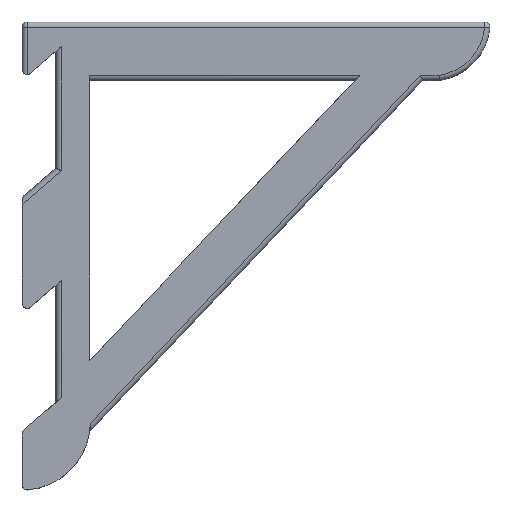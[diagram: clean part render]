
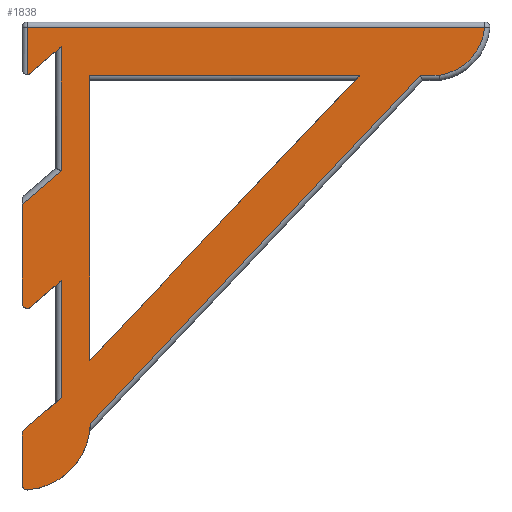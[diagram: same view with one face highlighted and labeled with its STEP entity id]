
A CAD part, top view. The second image highlights one B-rep face of the part: STEP entity #1838.
In plain terms, the highlighted planar face has unit normal (0, 0, 1).
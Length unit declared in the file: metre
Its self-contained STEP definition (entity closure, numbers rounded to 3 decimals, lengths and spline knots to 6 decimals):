
#90=CIRCLE('',#1955,0.016683);
#93=CIRCLE('',#1976,0.00127);
#94=CIRCLE('',#1977,0.00127);
#95=CIRCLE('',#1978,0.00127);
#96=CIRCLE('',#1979,0.013167);
#97=CIRCLE('',#1980,0.00127);
#272=ORIENTED_EDGE('',*,*,#786,.F.);
#273=ORIENTED_EDGE('',*,*,#812,.T.);
#274=ORIENTED_EDGE('',*,*,#813,.T.);
#275=ORIENTED_EDGE('',*,*,#736,.F.);
#276=ORIENTED_EDGE('',*,*,#814,.T.);
#277=ORIENTED_EDGE('',*,*,#797,.F.);
#278=ORIENTED_EDGE('',*,*,#815,.T.);
#279=ORIENTED_EDGE('',*,*,#803,.F.);
#280=ORIENTED_EDGE('',*,*,#816,.T.);
#281=ORIENTED_EDGE('',*,*,#805,.F.);
#282=ORIENTED_EDGE('',*,*,#817,.T.);
#283=ORIENTED_EDGE('',*,*,#764,.T.);
#284=ORIENTED_EDGE('',*,*,#818,.T.);
#285=ORIENTED_EDGE('',*,*,#819,.T.);
#286=ORIENTED_EDGE('',*,*,#820,.T.);
#287=ORIENTED_EDGE('',*,*,#821,.T.);
#288=ORIENTED_EDGE('',*,*,#822,.T.);
#289=ORIENTED_EDGE('',*,*,#823,.T.);
#290=ORIENTED_EDGE('',*,*,#824,.T.);
#291=ORIENTED_EDGE('',*,*,#810,.F.);
#292=ORIENTED_EDGE('',*,*,#756,.F.);
#736=EDGE_CURVE('',#1011,#1012,#1168,.T.);
#756=EDGE_CURVE('',#1031,#1027,#1186,.T.);
#764=EDGE_CURVE('',#1034,#1038,#90,.T.);
#786=EDGE_CURVE('',#1057,#1053,#1210,.T.);
#797=EDGE_CURVE('',#1066,#1062,#1220,.T.);
#803=EDGE_CURVE('',#1070,#1071,#1226,.T.);
#805=EDGE_CURVE('',#1072,#1073,#1227,.T.);
#810=EDGE_CURVE('',#1027,#1076,#1232,.T.);
#812=EDGE_CURVE('',#1057,#1077,#1233,.T.);
#813=EDGE_CURVE('',#1077,#1012,#1234,.F.);
#814=EDGE_CURVE('',#1011,#1062,#93,.T.);
#815=EDGE_CURVE('',#1066,#1071,#1235,.F.);
#816=EDGE_CURVE('',#1070,#1073,#94,.T.);
#817=EDGE_CURVE('',#1072,#1034,#95,.T.);
#818=EDGE_CURVE('',#1038,#1078,#1236,.F.);
#819=EDGE_CURVE('',#1078,#1079,#1237,.T.);
#820=EDGE_CURVE('',#1079,#1080,#96,.T.);
#821=EDGE_CURVE('',#1080,#1081,#1238,.F.);
#822=EDGE_CURVE('',#1081,#1082,#1239,.F.);
#823=EDGE_CURVE('',#1082,#1053,#97,.T.);
#824=EDGE_CURVE('',#1031,#1076,#1240,.T.);
#1011=VERTEX_POINT('',#2707);
#1012=VERTEX_POINT('',#2708);
#1027=VERTEX_POINT('',#2740);
#1031=VERTEX_POINT('',#2747);
#1034=VERTEX_POINT('',#2757);
#1038=VERTEX_POINT('',#2769);
#1053=VERTEX_POINT('',#2809);
#1057=VERTEX_POINT('',#2816);
#1062=VERTEX_POINT('',#2832);
#1066=VERTEX_POINT('',#2839);
#1070=VERTEX_POINT('',#2851);
#1071=VERTEX_POINT('',#2853);
#1072=VERTEX_POINT('',#2857);
#1073=VERTEX_POINT('',#2858);
#1076=VERTEX_POINT('',#2867);
#1077=VERTEX_POINT('',#2871);
#1078=VERTEX_POINT('',#2878);
#1079=VERTEX_POINT('',#2880);
#1080=VERTEX_POINT('',#2882);
#1081=VERTEX_POINT('',#2884);
#1082=VERTEX_POINT('',#2886);
#1168=LINE('',#2706,#1357);
#1186=LINE('',#2748,#1375);
#1210=LINE('',#2817,#1399);
#1220=LINE('',#2840,#1409);
#1226=LINE('',#2852,#1415);
#1227=LINE('',#2856,#1416);
#1232=LINE('',#2866,#1421);
#1233=LINE('',#2870,#1422);
#1234=LINE('',#2872,#1423);
#1235=LINE('',#2874,#1424);
#1236=LINE('',#2877,#1425);
#1237=LINE('',#2879,#1426);
#1238=LINE('',#2883,#1427);
#1239=LINE('',#2885,#1428);
#1240=LINE('',#2888,#1429);
#1357=VECTOR('',#2133,1.);
#1375=VECTOR('',#2157,1.);
#1399=VECTOR('',#2207,1.);
#1409=VECTOR('',#2225,1.);
#1415=VECTOR('',#2235,1.);
#1416=VECTOR('',#2240,1.);
#1421=VECTOR('',#2247,1.);
#1422=VECTOR('',#2252,1.);
#1423=VECTOR('',#2253,1.);
#1424=VECTOR('',#2256,1.);
#1425=VECTOR('',#2261,1.);
#1426=VECTOR('',#2262,1.);
#1427=VECTOR('',#2265,1.);
#1428=VECTOR('',#2266,1.);
#1429=VECTOR('',#2269,1.);
#1549=EDGE_LOOP('',(#272,#273,#274,#275,#276,#277,#278,#279,#280,#281,#282,
#283,#284,#285,#286,#287,#288,#289));
#1550=EDGE_LOOP('',(#290,#291,#292));
#1668=FACE_BOUND('',#1549,.T.);
#1669=FACE_BOUND('',#1550,.T.);
#1781=PLANE('',#1975);
#1838=ADVANCED_FACE('',(#1668,#1669),#1781,.T.);
#1955=AXIS2_PLACEMENT_3D('',#2770,#2169,#2170);
#1975=AXIS2_PLACEMENT_3D('',#2869,#2250,#2251);
#1976=AXIS2_PLACEMENT_3D('',#2873,#2254,#2255);
#1977=AXIS2_PLACEMENT_3D('',#2875,#2257,#2258);
#1978=AXIS2_PLACEMENT_3D('',#2876,#2259,#2260);
#1979=AXIS2_PLACEMENT_3D('',#2881,#2263,#2264);
#1980=AXIS2_PLACEMENT_3D('',#2887,#2267,#2268);
#2133=DIRECTION('',(0.,1.,0.));
#2157=DIRECTION('',(0.,-1.,0.));
#2169=DIRECTION('',(0.,0.,1.));
#2170=DIRECTION('',(1.,0.,0.));
#2207=DIRECTION('',(-0.756,-0.654,0.));
#2225=DIRECTION('',(-0.756,-0.654,0.));
#2235=DIRECTION('',(0.756,0.654,0.));
#2240=DIRECTION('',(0.,1.,0.));
#2247=DIRECTION('',(0.688,0.726,0.));
#2250=DIRECTION('',(0.,0.,1.));
#2251=DIRECTION('',(1.,0.,0.));
#2252=DIRECTION('',(0.,-1.,0.));
#2253=DIRECTION('',(0.756,0.654,0.));
#2254=DIRECTION('',(0.,0.,1.));
#2255=DIRECTION('',(1.,0.,0.));
#2256=DIRECTION('',(0.,1.,0.));
#2257=DIRECTION('',(0.,0.,1.));
#2258=DIRECTION('',(1.,0.,0.));
#2259=DIRECTION('',(0.,0.,1.));
#2260=DIRECTION('',(1.,0.,0.));
#2261=DIRECTION('',(-0.688,-0.726,0.));
#2262=DIRECTION('',(1.,0.,0.));
#2263=DIRECTION('',(0.,0.,1.));
#2264=DIRECTION('',(1.,0.,0.));
#2265=DIRECTION('',(1.,0.,0.));
#2266=DIRECTION('',(0.,1.,0.));
#2267=DIRECTION('',(0.,0.,1.));
#2268=DIRECTION('',(1.,0.,0.));
#2269=DIRECTION('',(1.,0.,0.));
#2706=CARTESIAN_POINT('',(-0.008255,0.003572,0.01651));
#2707=CARTESIAN_POINT('',(-0.008255,-0.011509,0.01651));
#2708=CARTESIAN_POINT('',(-0.008255,0.012608,0.01651));
#2740=CARTESIAN_POINT('',(0.008255,-0.02545,0.01651));
#2747=CARTESIAN_POINT('',(0.008255,0.044133,0.01651));
#2748=CARTESIAN_POINT('',(0.008255,-0.012725,0.01651));
#2757=CARTESIAN_POINT('',(-0.00688,-0.057093,0.01651));
#2769=CARTESIAN_POINT('',(0.008424,-0.040839,0.01651));
#2770=CARTESIAN_POINT('',(-0.008255,-0.040467,0.01651));
#2809=CARTESIAN_POINT('',(-0.006154,0.044681,0.01651));
#2816=CARTESIAN_POINT('',(0.00127,0.051105,0.01651));
#2817=CARTESIAN_POINT('',(-0.004128,0.046434,0.01651));
#2832=CARTESIAN_POINT('',(-0.006154,-0.012469,0.01651));
#2839=CARTESIAN_POINT('',(0.00127,-0.006045,0.01651));
#2840=CARTESIAN_POINT('',(-0.004128,-0.010716,0.01651));
#2851=CARTESIAN_POINT('',(-0.007816,-0.042483,0.01651));
#2852=CARTESIAN_POINT('',(-0.004128,-0.039291,0.01651));
#2853=CARTESIAN_POINT('',(0.00127,-0.03462,0.01651));
#2856=CARTESIAN_POINT('',(-0.008255,-0.050006,0.01651));
#2857=CARTESIAN_POINT('',(-0.008255,-0.055828,0.01651));
#2858=CARTESIAN_POINT('',(-0.008255,-0.043443,0.01651));
#2866=CARTESIAN_POINT('',(0.04064,0.008706,0.01651));
#2867=CARTESIAN_POINT('',(0.074229,0.044133,0.01651));
#2869=CARTESIAN_POINT('',(0.048895,0.,0.01651));
#2870=CARTESIAN_POINT('',(0.00127,0.021431,0.01651));
#2871=CARTESIAN_POINT('',(0.00127,0.020851,0.01651));
#2872=CARTESIAN_POINT('',(0.018184,0.035488,0.01651));
#2873=CARTESIAN_POINT('',(-0.006985,-0.011509,0.01651));
#2874=CARTESIAN_POINT('',(0.00127,0.,0.01651));
#2875=CARTESIAN_POINT('',(-0.006985,-0.043443,0.01651));
#2876=CARTESIAN_POINT('',(-0.006985,-0.055828,0.01651));
#2877=CARTESIAN_POINT('',(0.047973,0.000874,0.01651));
#2878=CARTESIAN_POINT('',(0.088989,0.044133,0.01651));
#2879=CARTESIAN_POINT('',(0.093681,0.044133,0.01651));
#2880=CARTESIAN_POINT('',(0.093587,0.044133,0.01651));
#2881=CARTESIAN_POINT('',(0.091608,0.05715,0.01651));
#2882=CARTESIAN_POINT('',(0.104714,0.05588,0.01651));
#2883=CARTESIAN_POINT('',(0.048895,0.05588,0.01651));
#2884=CARTESIAN_POINT('',(-0.006985,0.05588,0.01651));
#2885=CARTESIAN_POINT('',(-0.006985,0.,0.01651));
#2886=CARTESIAN_POINT('',(-0.006985,0.044371,0.01651));
#2887=CARTESIAN_POINT('',(-0.006985,0.045641,0.01651));
#2888=CARTESIAN_POINT('',(0.073025,0.044133,0.01651));
